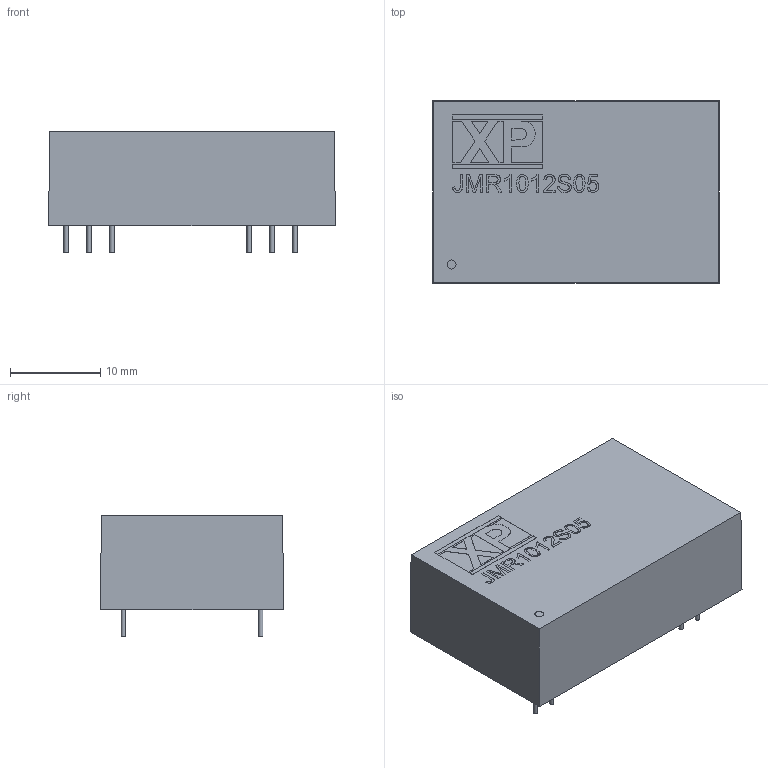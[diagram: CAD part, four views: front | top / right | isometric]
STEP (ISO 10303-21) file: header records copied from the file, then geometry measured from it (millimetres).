
FILE_DESCRIPTION(/* description */ ('Unknown'),/* implementation_level */ '2;1');
FILE_NAME(/* name */ 'JMR10-外觀',/* time_stamp */ '2023-06-20T16:00:49+08:00',/* author */ ('Unknown'),/* organization */ ('Unknown'),/* preprocessor_version */ 'ST-DEVELOPER v18.102',/* originating_system */ 'Solid Edge',/* authorisation */ 'Unknown');
FILE_SCHEMA (('AUTOMOTIVE_DESIGN {1 0 10303 214 3 1 1}'));
Length unit declared in the file: millimetre
Products named in the file (1): JMR10-外
Bounding box: 31.8 x 20.3 x 13.5 mm (x, y, z)
Volume: 1462.6 mm3; surface area: 4737.3 mm2
Topology: 2 solids, 2 shells, 217 faces, 529 edges, 354 vertices
Faces by surface type: plane 173, bspline 34, cylinder 10
Full cylindrical faces by diameter (mm): 0.5 x8, 1 x1, 2 x1
Entity records: 9515 total; most frequent: CARTESIAN_POINT 3122, ORIENTED_EDGE 1030, DIRECTION 830, EDGE_CURVE 515, LINE 422, VECTOR 422, VERTEX_POINT 354, EDGE_LOOP 269
